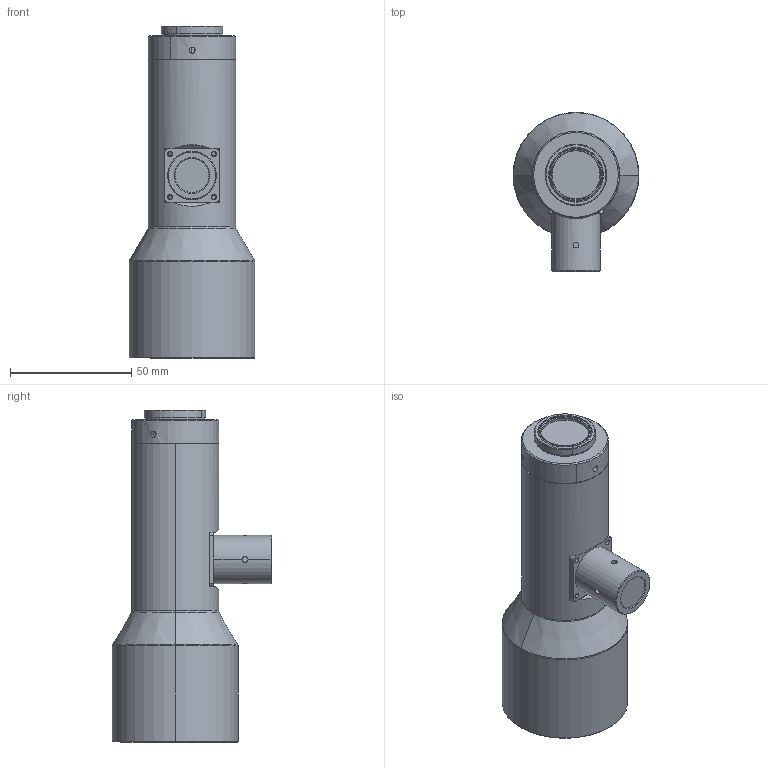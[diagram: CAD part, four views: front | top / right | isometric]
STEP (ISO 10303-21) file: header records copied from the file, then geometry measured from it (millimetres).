
FILE_DESCRIPTION (( 'STEP AP203' ), '1' );
FILE_NAME ('WWK05-110C-111V3.STEP', '2023-03-23T08:54:58', ( '' ), ( '' ), 'SwSTEP 2.0', 'SolidWorks 2017', '' );
FILE_SCHEMA (( 'CONFIG_CONTROL_DESIGN' ));
Length unit declared in the file: millimetre
Products named in the file (1): WWK05-110C-111V3
Bounding box: 52 x 65.9 x 137.17 mm (x, y, z)
Volume: 193757.1 mm3; surface area: 24562.8 mm2
Topology: 1 solids, 7 shells, 168 faces, 364 edges, 230 vertices
Faces by surface type: cylinder 73, cone 50, plane 41, torus 4
Entity records: 5227 total; most frequent: CARTESIAN_POINT 1393, DIRECTION 834, ORIENTED_EDGE 728, EDGE_CURVE 364, AXIS2_PLACEMENT_3D 347, VERTEX_POINT 230, EDGE_LOOP 200, CIRCLE 178
